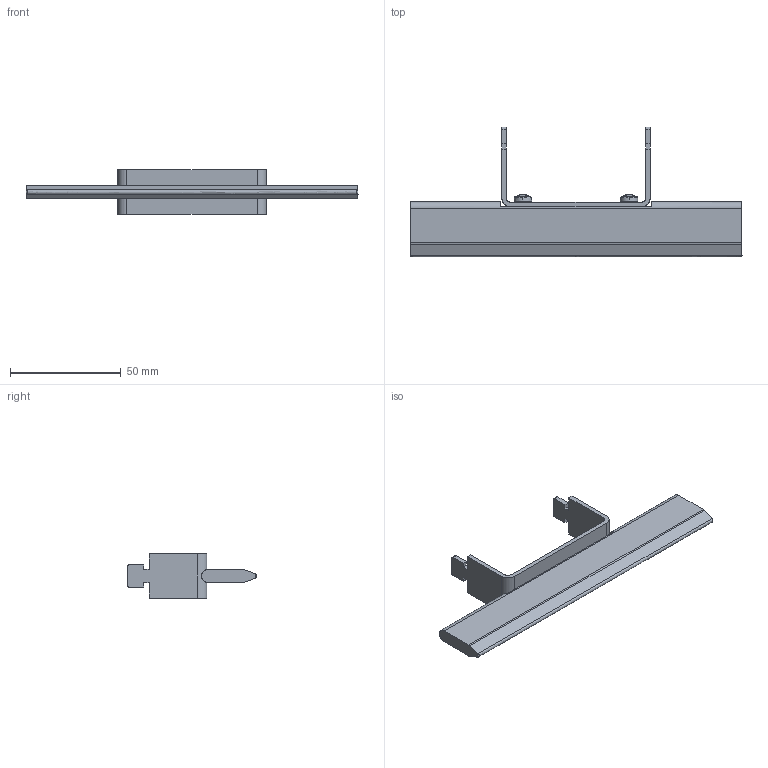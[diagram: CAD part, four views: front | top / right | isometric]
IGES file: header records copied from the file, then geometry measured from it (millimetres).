
Start section: SolidWorks IGES file using analytic representation for surfaces
Global section: file name: U:\14_RD\05_Technical_office\04_Office\Hrdinova\3D modely - IGES\Varius - Ostatní\ZP2.IGS; native system: SolidWorks 2011; preprocessor: SolidWorks 2011; author: adhrja3; date: 170621.073427; units: millimetre
Bounding box: 150 x 58.7 x 20 mm (x, y, z)
Surface area: 14654.9 mm2 (no closed solid volume)
Topology: 0 solids, 0 shells, 145 faces, 1494 edges, 1486 vertices
Faces by surface type: bspline 97, revolution 48
